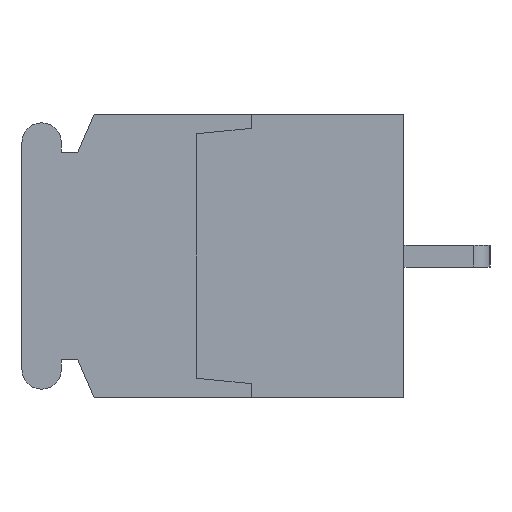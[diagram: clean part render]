
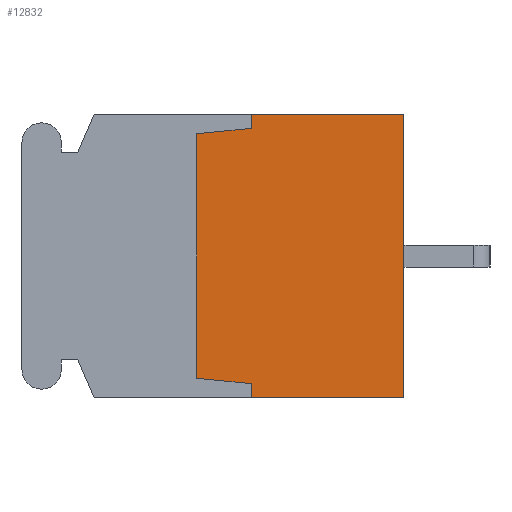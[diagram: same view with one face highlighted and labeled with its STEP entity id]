
A CAD part, left-side view. The second image highlights one B-rep face of the part: STEP entity #12832.
In plain terms, the highlighted planar face has unit normal (-1, 0, 0).
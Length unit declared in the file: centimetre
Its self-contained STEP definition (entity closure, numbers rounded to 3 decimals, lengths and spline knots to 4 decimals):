
#1693=VERTEX_POINT('',#19657);
#1694=VERTEX_POINT('',#19658);
#1695=VERTEX_POINT('',#19660);
#1696=VERTEX_POINT('',#19662);
#1697=VERTEX_POINT('',#19664);
#1698=VERTEX_POINT('',#19666);
#1699=VERTEX_POINT('',#19668);
#1700=VERTEX_POINT('',#19670);
#3072=VECTOR('',#15603,1.);
#3073=VECTOR('',#15604,1.);
#3074=VECTOR('',#15605,1.);
#3075=VECTOR('',#15606,1.);
#3076=VECTOR('',#15607,1.);
#3077=VECTOR('',#15608,1.);
#3078=VECTOR('',#15609,1.);
#3079=VECTOR('',#15610,1.);
#4525=LINE('',#19656,#3072);
#4526=LINE('',#19659,#3073);
#4527=LINE('',#19661,#3074);
#4528=LINE('',#19663,#3075);
#4529=LINE('',#19665,#3076);
#4530=LINE('',#19667,#3077);
#4531=LINE('',#19669,#3078);
#4532=LINE('',#19671,#3079);
#6342=EDGE_CURVE('',#1693,#1694,#4525,.T.);
#6343=EDGE_CURVE('',#1695,#1693,#4526,.T.);
#6344=EDGE_CURVE('',#1696,#1695,#4527,.T.);
#6345=EDGE_CURVE('',#1697,#1696,#4528,.T.);
#6346=EDGE_CURVE('',#1698,#1697,#4529,.T.);
#6347=EDGE_CURVE('',#1699,#1698,#4530,.T.);
#6348=EDGE_CURVE('',#1700,#1699,#4531,.T.);
#6349=EDGE_CURVE('',#1694,#1700,#4532,.T.);
#9580=ORIENTED_EDGE('',*,*,#6342,.F.);
#9581=ORIENTED_EDGE('',*,*,#6343,.F.);
#9582=ORIENTED_EDGE('',*,*,#6344,.F.);
#9583=ORIENTED_EDGE('',*,*,#6345,.F.);
#9584=ORIENTED_EDGE('',*,*,#6346,.F.);
#9585=ORIENTED_EDGE('',*,*,#6347,.F.);
#9586=ORIENTED_EDGE('',*,*,#6348,.F.);
#9587=ORIENTED_EDGE('',*,*,#6349,.F.);
#11303=EDGE_LOOP('',(#9580,#9581,#9582,#9583,#9584,#9585,#9586,#9587));
#12100=FACE_BOUND('',#11303,.T.);
#12832=ADVANCED_FACE('',(#12100),#13430,.F.);
#13430=PLANE('',#21913);
#15602=DIRECTION('',(1.,0.,0.));
#15603=DIRECTION('',(0.,0.,-1.));
#15604=DIRECTION('',(0.,-1.,0.));
#15605=DIRECTION('',(0.,0.,1.));
#15606=DIRECTION('',(0.,-0.995,0.1));
#15607=DIRECTION('',(0.,0.,1.));
#15608=DIRECTION('',(0.,0.995,0.1));
#15609=DIRECTION('',(0.,0.,1.));
#15610=DIRECTION('',(0.,1.,0.));
#19655=CARTESIAN_POINT('',(-1.07,0.4626,0.));
#19656=CARTESIAN_POINT('',(-1.07,0.,0.65));
#19657=CARTESIAN_POINT('',(-1.07,0.,0.65));
#19658=CARTESIAN_POINT('',(-1.07,0.,-0.65));
#19659=CARTESIAN_POINT('',(-1.07,0.7,0.65));
#19660=CARTESIAN_POINT('',(-1.07,0.7,0.65));
#19661=CARTESIAN_POINT('',(-1.07,0.7,0.585));
#19662=CARTESIAN_POINT('',(-1.07,0.7,0.585));
#19663=CARTESIAN_POINT('',(-1.07,0.95,0.56));
#19664=CARTESIAN_POINT('',(-1.07,0.95,0.56));
#19665=CARTESIAN_POINT('',(-1.07,0.95,-0.56));
#19666=CARTESIAN_POINT('',(-1.07,0.95,-0.56));
#19667=CARTESIAN_POINT('',(-1.07,0.7,-0.585));
#19668=CARTESIAN_POINT('',(-1.07,0.7,-0.585));
#19669=CARTESIAN_POINT('',(-1.07,0.7,-0.65));
#19670=CARTESIAN_POINT('',(-1.07,0.7,-0.65));
#19671=CARTESIAN_POINT('',(-1.07,0.,-0.65));
#21913=AXIS2_PLACEMENT_3D('',#19655,#15602,$);
